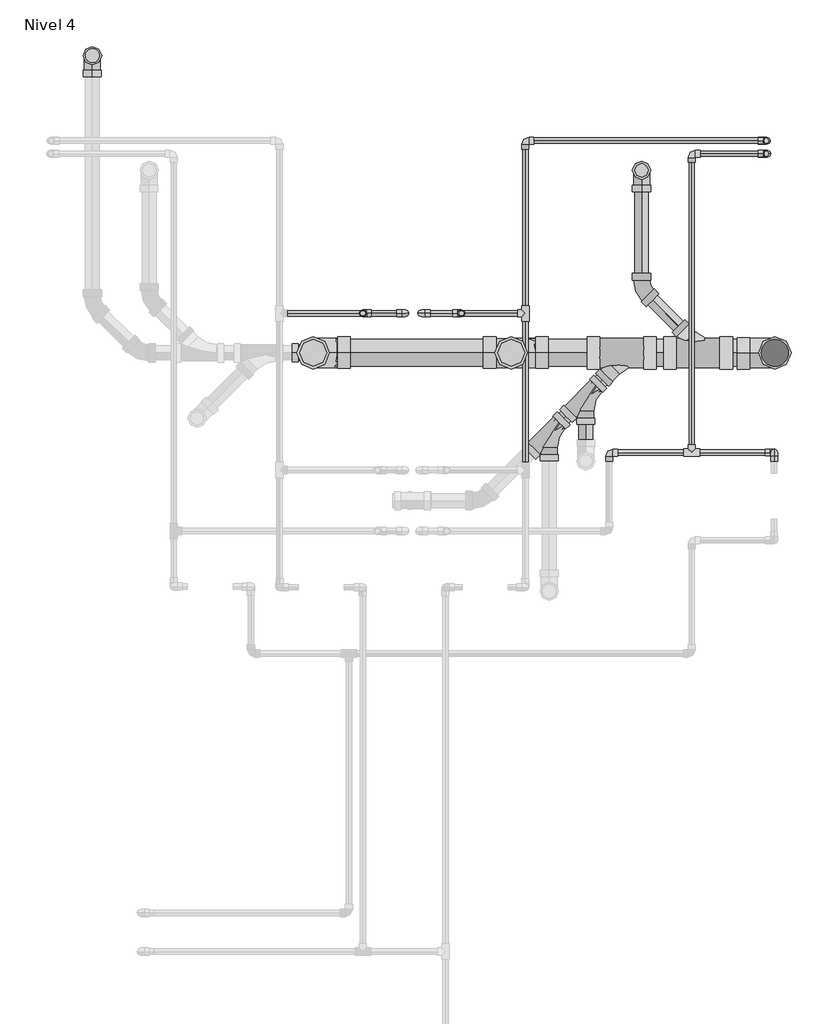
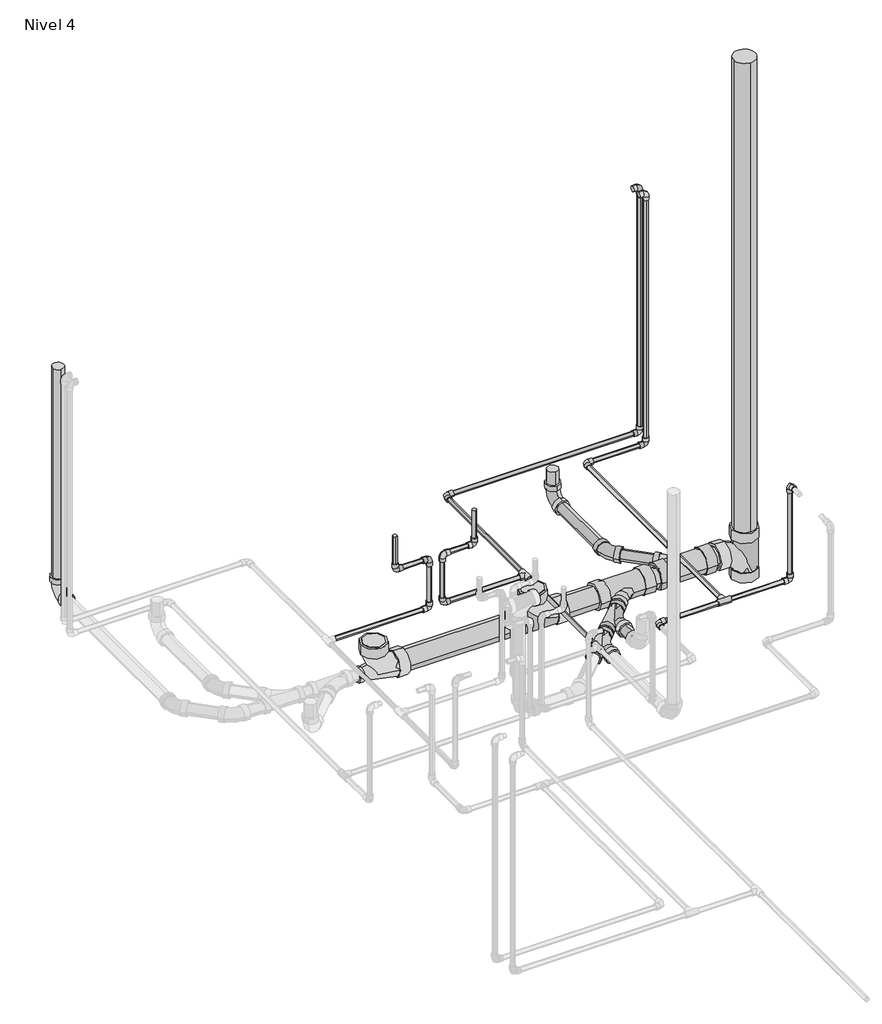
# One storey, part 9 of 9: 32 pipe segments, 27 pipe fittings.
"""IFC4 building model written with IfcOpenShell, lengths in millimetres."""

from ifc_helpers import new_model, si_unit, point, frame, frame_2d, origin, place, context, project, spatial, circle_curve, trimmed, segment, composite_curve, outline, extrude, transform, mapped, element, save
from components import pipe_fitting_ab418b84, pipe_fitting_0163322b, pipe_fitting_2a8dfbef, pipe_fitting_44a425ca, pipe_fitting_ef5974f2, m_codo_pvc_serie_40_9ad74631, m_codo_pvc_serie_40_ba05d404, m_codo_pvc_serie_40_dwv1_5c0ec739, m_codo_pvc_serie_40_dwv1_6f1a2495, m_codo_pvc_serie_40_dwv1_326aaa64

model = new_model("IFC4")

# Units and contexts
model_context = context("Model", 3, world=origin())
ifc_project = project(units=[si_unit("LENGTHUNIT", "METRE", prefix="MILLI")], contexts=[model_context])

# Site, building, storey
site = spatial("IfcSite", under=ifc_project)
building = spatial("IfcBuilding", under=site)
storey = spatial("IfcBuildingStorey", under=building, Name="Nivel 4", Elevation=8100.0)

# Pipe fittings
placement = place(None, origin())
pipe_fitting_shape = pipe_fitting_ab418b84(model_context)
element("IfcPipeFitting", 1, ObjectType="M_Te - PVC - Serie 40 : Estándar", at=placement, inside=storey, context=model_context, shape_type="MappedRepresentation", body=[
    mapped(pipe_fitting_shape, transform((4894.5674476, 16556.8784649, 8050.0), x_axis=(0.0, 1.0, 0.0), y_axis=(1.0, 0.0, 0.0), z_axis=(0.0, 0.0, -1.0))),
])
element("IfcPipeFitting", 2, ObjectType="M_Te - PVC - Serie 40 : Estándar", at=placement, inside=storey, context=model_context, shape_type="MappedRepresentation", body=[
    mapped(pipe_fitting_shape, transform((5540.0276039, 16016.3878958, 8020.0), x_axis=(-1.0, 0.0, 0.0), y_axis=(0.0, -1.0, 0.0), z_axis=(0.0, 0.0, 1.0))),
])
pipe_fitting_2_shape = pipe_fitting_0163322b(model_context)
element("IfcPipeFitting", 3, ObjectType="M_Sanitario con te de reducción - PVC - Serie 40 - DWV : Estándar", at=placement, inside=storey, context=model_context, shape_type="MappedRepresentation", body=[
    mapped(pipe_fitting_2_shape, transform((5128.991198, 16235.29172, 7950.0), x_axis=(-0.7071067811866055, -0.7071067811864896, 0.0), y_axis=(-0.7071067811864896, 0.7071067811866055, 0.0), z_axis=(0.0, 0.0, -1.0))),
])
element("IfcPipeFitting", 4, ObjectType="M_Sanitario con te de reducción - PVC - Serie 40 - DWV : Estándar", at=placement, inside=storey, context=model_context, shape_type="MappedRepresentation", body=[
    mapped(pipe_fitting_2_shape, transform((4986.7349767, 16093.0354988, 7950.0), x_axis=(-0.7071067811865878, -0.7071067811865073, 0.0), y_axis=(-0.7071067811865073, 0.7071067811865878, 0.0), z_axis=(0.0, 0.0, -1.0))),
])
pipe_fitting_3_shape = pipe_fitting_2a8dfbef(model_context)
element("IfcPipeFitting", 5, ObjectType="M_Sanitario con te de reducción - PVC - Serie 40 - DWV : Estándar", at=placement, inside=storey, context=model_context, shape_type="MappedRepresentation", body=[
    mapped(pipe_fitting_3_shape, transform((4839.2491598, 16403.3960274, 7950.0), x_axis=(-1.0, 0.0, 0.0), y_axis=(0.0, 0.0, -1.0), z_axis=(0.0, -1.0, 0.0))),
])
element("IfcPipeFitting", 6, ObjectType="M_Sanitario con te de reducción - PVC - Serie 40 - DWV : Estándar", at=placement, inside=storey, context=model_context, shape_type="MappedRepresentation", body=[
    mapped(pipe_fitting_3_shape, transform((5863.1438745, 16403.3960274, 7950.0), x_axis=(0.0, 0.0, 1.0), y_axis=(1.0, 0.0, 0.0), z_axis=(0.0, 1.0, 0.0))),
])
pipe_fitting_4_shape = pipe_fitting_44a425ca(model_context)
element("IfcPipeFitting", 7, ObjectType="M_Sanitario con te de reducción - PVC - Serie 40 - DWV : Estándar", at=placement, inside=storey, context=model_context, shape_type="MappedRepresentation", body=[
    mapped(pipe_fitting_4_shape, transform((4070.6571051, 16403.3960274, 7950.0), x_axis=(-1.0, 0.0, 0.0), y_axis=(0.0, 0.0, -1.0), z_axis=(0.0, -1.0, 0.0))),
])
pipe_fitting_5_shape = pipe_fitting_ef5974f2(model_context)
element("IfcPipeFitting", 8, ObjectType="M_Sanitario con te de reducción - PVC - Serie 40 - DWV : Estándar", at=placement, inside=storey, context=model_context, shape_type="MappedRepresentation", body=[
    mapped(pipe_fitting_5_shape, transform((5593.2700372, 16403.3960274, 7950.0), x_axis=(-1.0, 0.0, 0.0), y_axis=(0.0, -1.0, 0.0), z_axis=(0.0, 0.0, 1.0))),
])
element("IfcPipeFitting", 9, ObjectType="M_Sanitario con te de reducción - PVC - Serie 40 - DWV : Estándar", at=placement, inside=storey, context=model_context, shape_type="MappedRepresentation", body=[
    mapped(pipe_fitting_5_shape, transform((5297.0955053, 16403.3960274, 7950.0), x_axis=(-1.0, 0.0, 0.0), y_axis=(0.0, 1.0, 0.0), z_axis=(0.0, 0.0, -1.0))),
])
m_codo_pvc_serie_40_shape = m_codo_pvc_serie_40_9ad74631(model_context)
element("IfcPipeFitting", 10, ObjectType="M_Codo - PVC - Serie 40 : Estándar", at=placement, inside=storey, context=model_context, shape_type="MappedRepresentation", body=[
    mapped(m_codo_pvc_serie_40_shape, transform((4263.6339186, 16556.8784649, 8300.0), x_axis=(0.0, 0.0, -1.0), y_axis=(1.0, 0.0, 0.0), z_axis=(0.0, -1.0, 0.0))),
])
element("IfcPipeFitting", 11, ObjectType="M_Codo - PVC - Serie 40 : Estándar", at=placement, inside=storey, context=model_context, shape_type="MappedRepresentation", body=[
    mapped(m_codo_pvc_serie_40_shape, transform((4428.6339186, 16556.8784649, 8300.0), x_axis=(1.0, 0.0, 0.0), y_axis=(0.0, 0.0, -1.0), z_axis=(0.0, 1.0, 0.0))),
])
element("IfcPipeFitting", 12, ObjectType="M_Codo - PVC - Serie 40 : Estándar", at=placement, inside=storey, context=model_context, shape_type="MappedRepresentation", body=[
    mapped(m_codo_pvc_serie_40_shape, transform((4428.6339186, 16556.8784649, 8050.0), x_axis=(0.0, 0.0, -1.0), y_axis=(-1.0, 0.0, 0.0), z_axis=(0.0, 1.0, 0.0))),
])
element("IfcPipeFitting", 13, ObjectType="M_Codo - PVC - Serie 40 : Estándar", at=placement, inside=storey, context=model_context, shape_type="MappedRepresentation", body=[
    mapped(m_codo_pvc_serie_40_shape, transform((4646.2723463, 16556.8784649, 8300.0), x_axis=(0.0, 0.0, -1.0), y_axis=(-1.0, 0.0, 0.0), z_axis=(0.0, 1.0, 0.0))),
])
element("IfcPipeFitting", 14, ObjectType="M_Codo - PVC - Serie 40 : Estándar", at=placement, inside=storey, context=model_context, shape_type="MappedRepresentation", body=[
    mapped(m_codo_pvc_serie_40_shape, transform((4491.2723463, 16556.8784649, 8300.0), x_axis=(-1.0, 0.0, 0.0), y_axis=(0.0, 0.0, -1.0), z_axis=(0.0, -1.0, 0.0))),
])
element("IfcPipeFitting", 15, ObjectType="M_Codo - PVC - Serie 40 : Estándar", at=placement, inside=storey, context=model_context, shape_type="MappedRepresentation", body=[
    mapped(m_codo_pvc_serie_40_shape, transform((4894.5674476, 17227.3386211, 8050.0), x_axis=(-1.0, 0.0, 0.0), y_axis=(0.0, -1.0, 0.0), z_axis=(0.0, 0.0, 1.0))),
])
element("IfcPipeFitting", 16, ObjectType="M_Codo - PVC - Serie 40 : Estándar", at=placement, inside=storey, context=model_context, shape_type="MappedRepresentation", body=[
    mapped(m_codo_pvc_serie_40_shape, transform((4491.2723463, 16556.8784649, 8050.0), x_axis=(0.0, 0.0, -1.0), y_axis=(1.0, 0.0, 0.0), z_axis=(0.0, -1.0, 0.0))),
])
element("IfcPipeFitting", 17, ObjectType="M_Codo - PVC - Serie 40 : Estándar", at=placement, inside=storey, context=model_context, shape_type="MappedRepresentation", body=[
    mapped(m_codo_pvc_serie_40_shape, transform((5860.0276039, 16016.3878958, 8500.0), x_axis=(0.0, 1.0, 0.0), y_axis=(0.0, 0.0, -1.0), z_axis=(-1.0, 0.0, 0.0))),
])
element("IfcPipeFitting", 18, ObjectType="M_Codo - PVC - Serie 40 : Estándar", at=placement, inside=storey, context=model_context, shape_type="MappedRepresentation", body=[
    mapped(m_codo_pvc_serie_40_shape, transform((5860.0276039, 16016.3878958, 8020.0), x_axis=(0.0, 0.0, -1.0), y_axis=(-1.0, 0.0, 0.0), z_axis=(0.0, 1.0, 0.0))),
])
element("IfcPipeFitting", 19, ObjectType="M_Codo - PVC - Serie 40 : Estándar", at=placement, inside=storey, context=model_context, shape_type="MappedRepresentation", body=[
    mapped(m_codo_pvc_serie_40_shape, transform((5540.0276039, 17176.3878958, 8020.0), x_axis=(-1.0, 0.0, 0.0), y_axis=(0.0, -1.0, 0.0), z_axis=(0.0, 0.0, 1.0))),
])
element("IfcPipeFitting", 20, ObjectType="M_Codo - PVC - Serie 40 : Estándar", at=placement, inside=storey, context=model_context, shape_type="MappedRepresentation", body=[
    mapped(m_codo_pvc_serie_40_shape, transform((5832.5276039, 17176.3878958, 8020.0), x_axis=(1.0, 0.0, 0.0), y_axis=(0.0, 0.0, 1.0), z_axis=(0.0, -1.0, 0.0))),
])
element("IfcPipeFitting", 21, ObjectType="M_Codo - PVC - Serie 40 : Estándar", at=placement, inside=storey, context=model_context, shape_type="MappedRepresentation", body=[
    mapped(m_codo_pvc_serie_40_shape, transform((5832.5276039, 17176.3878958, 9300.0), x_axis=(0.0, 0.0, 1.0), y_axis=(-1.0, 0.0, 0.0), z_axis=(0.0, -1.0, 0.0))),
])
element("IfcPipeFitting", 22, ObjectType="M_Codo - PVC - Serie 40 : Estándar", at=placement, inside=storey, context=model_context, shape_type="MappedRepresentation", body=[
    mapped(m_codo_pvc_serie_40_shape, transform((5219.5674476, 16016.3878958, 8020.0), x_axis=(-1.0, 0.0, 0.0), y_axis=(0.0, -1.0, 0.0), z_axis=(0.0, 0.0, 1.0))),
])
m_codo_pvc_serie_40_2_shape = m_codo_pvc_serie_40_ba05d404(model_context)
element("IfcPipeFitting", 23, ObjectType="M_Codo - PVC - Serie 40 : Estándar", at=placement, inside=storey, context=model_context, shape_type="MappedRepresentation", body=[
    mapped(m_codo_pvc_serie_40_2_shape, transform((5831.7288958, 17227.3386211, 8050.0), x_axis=(1.0, 0.0, 0.0), y_axis=(0.0, 0.0, -1.0), z_axis=(0.0, 1.0, 0.0))),
])
element("IfcPipeFitting", 24, ObjectType="M_Codo - PVC - Serie 40 : Estándar", at=placement, inside=storey, context=model_context, shape_type="MappedRepresentation", body=[
    mapped(m_codo_pvc_serie_40_2_shape, transform((5831.7288958, 17227.3386211, 9300.0), x_axis=(0.0, 0.0, 1.0), y_axis=(1.0, 0.0, 0.0), z_axis=(0.0, 1.0, 0.0))),
])
m_codo_pvc_serie_40_dwv1_shape = m_codo_pvc_serie_40_dwv1_5c0ec739(model_context)
element("IfcPipeFitting", 25, ObjectType="M_Codo - PVC - Serie 40 - DWV1 : Estándar 2", at=placement, inside=storey, context=model_context, shape_type="MappedRepresentation", body=[
    mapped(m_codo_pvc_serie_40_dwv1_shape, transform((3213.7125219, 17557.2430701, 7950.0), x_axis=(0.0, 1.0, 0.0), y_axis=(0.0, 0.0, 1.0), z_axis=(1.0, 0.0, 0.0))),
])
m_codo_pvc_serie_40_dwv1_2_shape = m_codo_pvc_serie_40_dwv1_6f1a2495(model_context)
element("IfcPipeFitting", 26, ObjectType="M_Codo - PVC - Serie 40 - DWV1 : Estándar 2", at=placement, inside=storey, context=model_context, shape_type="MappedRepresentation", body=[
    mapped(m_codo_pvc_serie_40_dwv1_2_shape, transform((5345.3911414, 16651.2749231, 7950.0), x_axis=(0.0, -1.0, 0.0), y_axis=(1.0, 0.0, 0.0), z_axis=(0.0, 0.0, 1.0))),
])
m_codo_pvc_serie_40_dwv1_3_shape = m_codo_pvc_serie_40_dwv1_326aaa64(model_context)
element("IfcPipeFitting", 27, ObjectType="M_Codo - PVC - Serie 40 - DWV1 : Estándar 2", at=placement, inside=storey, context=model_context, shape_type="MappedRepresentation", body=[
    mapped(m_codo_pvc_serie_40_dwv1_3_shape, transform((5345.3911414, 17111.7600116, 7950.0), x_axis=(0.0, 1.0, 0.0), y_axis=(0.0, 0.0, -1.0), z_axis=(-1.0, 0.0, 0.0))),
])

# Pipe segments
element("IfcPipeSegment", 28, ObjectType="Tuberia PVC Agua Fria", at=placement, inside=storey, context=model_context, shape_type="SweptSolid", body=[
    extrude(outline(composite_curve([segment(trimmed(circle_curve(frame_2d((16556.8784649, 8300.0)), 10.31875), [point((16546.5597149, 8300.0))], [point((16556.8784649, 8310.31875))], False, "CARTESIAN"), True, "CONTINUOUS"), segment(trimmed(circle_curve(frame_2d((16556.8784649, 8300.0)), 10.31875), [point((16556.8784649, 8310.31875))], [point((16567.1972149, 8300.0))], False, "CARTESIAN"), True, "CONTINUOUS"), segment(trimmed(circle_curve(frame_2d((16556.8784649, 8300.0)), 10.31875), [point((16567.1972149, 8300.0))], [point((16556.8784649, 8289.68125))], False, "CARTESIAN"), True, "CONTINUOUS"), segment(trimmed(circle_curve(frame_2d((16556.8784649, 8300.0)), 10.31875), [point((16556.8784649, 8289.68125))], [point((16546.5597149, 8300.0))], False, "CARTESIAN"), True, "CONTINUOUS")], self_intersect=False)), frame((4297.0349186, 0.0, 0.0), z_axis=(1.0, 0.0, 0.0), x_axis=(0.0, 1.0, 0.0)), (0.0, 0.0, 1.0), 98.198),
])
element("IfcPipeSegment", 29, ObjectType="Tuberia PVC Agua Fria", at=placement, inside=storey, context=model_context, shape_type="SweptSolid", body=[
    extrude(outline(composite_curve([segment(trimmed(circle_curve(frame_2d((4263.6339186, 16556.8784649)), 10.31875), [point((4273.9526686, 16556.8784649))], [point((4263.6339186, 16546.5597149))], False, "CARTESIAN"), True, "CONTINUOUS"), segment(trimmed(circle_curve(frame_2d((4263.6339186, 16556.8784649)), 10.31875), [point((4263.6339186, 16546.5597149))], [point((4253.3151686, 16556.8784649))], False, "CARTESIAN"), True, "CONTINUOUS"), segment(trimmed(circle_curve(frame_2d((4263.6339186, 16556.8784649)), 10.31875), [point((4253.3151686, 16556.8784649))], [point((4263.6339186, 16567.1972149))], False, "CARTESIAN"), True, "CONTINUOUS"), segment(trimmed(circle_curve(frame_2d((4263.6339186, 16556.8784649)), 10.31875), [point((4263.6339186, 16567.1972149))], [point((4273.9526686, 16556.8784649))], False, "CARTESIAN"), True, "CONTINUOUS")], self_intersect=False)), frame((0.0, 0.0, 8333.401), z_axis=(0.0, 0.0, 1.0), x_axis=(1.0, 0.0, 0.0)), (0.0, 0.0, 1.0), 139.7562509),
])
element("IfcPipeSegment", 30, ObjectType="Tuberia PVC Agua Fria", at=placement, inside=storey, context=model_context, shape_type="SweptSolid", body=[
    extrude(outline(composite_curve([segment(trimmed(circle_curve(frame_2d((16556.8784649, 8050.0)), 10.31875), [point((16567.1972149, 8050.0))], [point((16556.8784649, 8039.68125))], False, "CARTESIAN"), True, "CONTINUOUS"), segment(trimmed(circle_curve(frame_2d((16556.8784649, 8050.0)), 10.31875), [point((16556.8784649, 8039.68125))], [point((16546.5597149, 8050.0))], False, "CARTESIAN"), True, "CONTINUOUS"), segment(trimmed(circle_curve(frame_2d((16556.8784649, 8050.0)), 10.31875), [point((16546.5597149, 8050.0))], [point((16556.8784649, 8060.31875))], False, "CARTESIAN"), True, "CONTINUOUS"), segment(trimmed(circle_curve(frame_2d((16556.8784649, 8050.0)), 10.31875), [point((16556.8784649, 8060.31875))], [point((16567.1972149, 8050.0))], False, "CARTESIAN"), True, "CONTINUOUS")], self_intersect=False)), frame((3970.5125253, 0.0, 0.0), z_axis=(1.0, 0.0, 0.0), x_axis=(0.0, 1.0, 0.0)), (0.0, 0.0, 1.0), 424.7203933),
])
element("IfcPipeSegment", 31, ObjectType="Tuberia PVC Agua Fria", at=placement, inside=storey, context=model_context, shape_type="SweptSolid", body=[
    extrude(outline(composite_curve([segment(trimmed(circle_curve(frame_2d((4428.6339186, 16556.8784649)), 10.31875), [point((4438.9526686, 16556.8784649))], [point((4428.6339186, 16546.5597149))], False, "CARTESIAN"), True, "CONTINUOUS"), segment(trimmed(circle_curve(frame_2d((4428.6339186, 16556.8784649)), 10.31875), [point((4428.6339186, 16546.5597149))], [point((4418.3151686, 16556.8784649))], False, "CARTESIAN"), True, "CONTINUOUS"), segment(trimmed(circle_curve(frame_2d((4428.6339186, 16556.8784649)), 10.31875), [point((4418.3151686, 16556.8784649))], [point((4428.6339186, 16567.1972149))], False, "CARTESIAN"), True, "CONTINUOUS"), segment(trimmed(circle_curve(frame_2d((4428.6339186, 16556.8784649)), 10.31875), [point((4428.6339186, 16567.1972149))], [point((4438.9526686, 16556.8784649))], False, "CARTESIAN"), True, "CONTINUOUS")], self_intersect=False)), frame((0.0, 0.0, 8083.401), z_axis=(0.0, 0.0, 1.0), x_axis=(1.0, 0.0, 0.0)), (0.0, 0.0, 1.0), 183.198),
])
element("IfcPipeSegment", 32, ObjectType="Tuberia PVC Agua Fria", at=placement, inside=storey, context=model_context, shape_type="SweptSolid", body=[
    extrude(outline(composite_curve([segment(trimmed(circle_curve(frame_2d((16556.8784649, 8300.0)), 10.31875), [point((16567.1972149, 8300.0))], [point((16556.8784649, 8289.68125))], False, "CARTESIAN"), True, "CONTINUOUS"), segment(trimmed(circle_curve(frame_2d((16556.8784649, 8300.0)), 10.31875), [point((16556.8784649, 8289.68125))], [point((16546.5597149, 8300.0))], False, "CARTESIAN"), True, "CONTINUOUS"), segment(trimmed(circle_curve(frame_2d((16556.8784649, 8300.0)), 10.31875), [point((16546.5597149, 8300.0))], [point((16556.8784649, 8310.31875))], False, "CARTESIAN"), True, "CONTINUOUS"), segment(trimmed(circle_curve(frame_2d((16556.8784649, 8300.0)), 10.31875), [point((16556.8784649, 8310.31875))], [point((16567.1972149, 8300.0))], False, "CARTESIAN"), True, "CONTINUOUS")], self_intersect=False)), frame((4524.6733463, 0.0, 0.0), z_axis=(1.0, 0.0, 0.0), x_axis=(0.0, 1.0, 0.0)), (0.0, 0.0, 1.0), 88.198),
])
element("IfcPipeSegment", 33, ObjectType="Tuberia PVC Agua Fria", at=placement, inside=storey, context=model_context, shape_type="SweptSolid", body=[
    extrude(outline(composite_curve([segment(trimmed(circle_curve(frame_2d((4646.2723463, 16556.8784649)), 10.31875), [point((4656.5910963, 16556.8784649))], [point((4646.2723463, 16546.5597149))], False, "CARTESIAN"), True, "CONTINUOUS"), segment(trimmed(circle_curve(frame_2d((4646.2723463, 16556.8784649)), 10.31875), [point((4646.2723463, 16546.5597149))], [point((4635.9535963, 16556.8784649))], False, "CARTESIAN"), True, "CONTINUOUS"), segment(trimmed(circle_curve(frame_2d((4646.2723463, 16556.8784649)), 10.31875), [point((4635.9535963, 16556.8784649))], [point((4646.2723463, 16567.1972149))], False, "CARTESIAN"), True, "CONTINUOUS"), segment(trimmed(circle_curve(frame_2d((4646.2723463, 16556.8784649)), 10.31875), [point((4646.2723463, 16567.1972149))], [point((4656.5910963, 16556.8784649))], False, "CARTESIAN"), True, "CONTINUOUS")], self_intersect=False)), frame((0.0, 0.0, 8333.401), z_axis=(0.0, 0.0, 1.0), x_axis=(1.0, 0.0, 0.0)), (0.0, 0.0, 1.0), 139.7562509),
])
element("IfcPipeSegment", 34, ObjectType="Tuberia PVC Agua Fria", at=placement, inside=storey, context=model_context, shape_type="SweptSolid", body=[
    extrude(outline(composite_curve([segment(trimmed(circle_curve(frame_2d((4491.2723463, 16556.8784649)), 10.31875), [point((4501.5910963, 16556.8784649))], [point((4491.2723463, 16546.5597149))], False, "CARTESIAN"), True, "CONTINUOUS"), segment(trimmed(circle_curve(frame_2d((4491.2723463, 16556.8784649)), 10.31875), [point((4491.2723463, 16546.5597149))], [point((4480.9535963, 16556.8784649))], False, "CARTESIAN"), True, "CONTINUOUS"), segment(trimmed(circle_curve(frame_2d((4491.2723463, 16556.8784649)), 10.31875), [point((4480.9535963, 16556.8784649))], [point((4491.2723463, 16567.1972149))], False, "CARTESIAN"), True, "CONTINUOUS"), segment(trimmed(circle_curve(frame_2d((4491.2723463, 16556.8784649)), 10.31875), [point((4491.2723463, 16567.1972149))], [point((4501.5910963, 16556.8784649))], False, "CARTESIAN"), True, "CONTINUOUS")], self_intersect=False)), frame((0.0, 0.0, 8083.401), z_axis=(0.0, 0.0, 1.0), x_axis=(1.0, 0.0, 0.0)), (0.0, 0.0, 1.0), 183.198),
])
element("IfcPipeSegment", 35, ObjectType="Tuberia PVC Agua Fria", at=placement, inside=storey, context=model_context, shape_type="SweptSolid", body=[
    extrude(outline(composite_curve([segment(trimmed(circle_curve(frame_2d((17227.3386211, 8050.0)), 10.31875), [point((17217.0198711, 8050.0))], [point((17227.3386211, 8060.31875))], False, "CARTESIAN"), True, "CONTINUOUS"), segment(trimmed(circle_curve(frame_2d((17227.3386211, 8050.0)), 10.31875), [point((17227.3386211, 8060.31875))], [point((17237.6573711, 8050.0))], False, "CARTESIAN"), True, "CONTINUOUS"), segment(trimmed(circle_curve(frame_2d((17227.3386211, 8050.0)), 10.31875), [point((17237.6573711, 8050.0))], [point((17227.3386211, 8039.68125))], False, "CARTESIAN"), True, "CONTINUOUS"), segment(trimmed(circle_curve(frame_2d((17227.3386211, 8050.0)), 10.31875), [point((17227.3386211, 8039.68125))], [point((17217.0198711, 8050.0))], False, "CARTESIAN"), True, "CONTINUOUS")], self_intersect=False)), frame((4927.9684476, 0.0, 0.0), z_axis=(1.0, 0.0, 0.0), x_axis=(0.0, 1.0, 0.0)), (0.0, 0.0, 1.0), 870.3594481),
])
element("IfcPipeSegment", 36, ObjectType="Tuberia PVC Agua Fria", at=placement, inside=storey, context=model_context, shape_type="SweptSolid", body=[
    extrude(outline(composite_curve([segment(trimmed(circle_curve(frame_2d((5831.7288958, 17227.3386211)), 10.31875), [point((5821.4101458, 17227.3386211))], [point((5831.7288958, 17237.6573711))], False, "CARTESIAN"), True, "CONTINUOUS"), segment(trimmed(circle_curve(frame_2d((5831.7288958, 17227.3386211)), 10.31875), [point((5831.7288958, 17237.6573711))], [point((5842.0476458, 17227.3386211))], False, "CARTESIAN"), True, "CONTINUOUS"), segment(trimmed(circle_curve(frame_2d((5831.7288958, 17227.3386211)), 10.31875), [point((5842.0476458, 17227.3386211))], [point((5831.7288958, 17217.0198711))], False, "CARTESIAN"), True, "CONTINUOUS"), segment(trimmed(circle_curve(frame_2d((5831.7288958, 17227.3386211)), 10.31875), [point((5831.7288958, 17217.0198711))], [point((5821.4101458, 17227.3386211))], False, "CARTESIAN"), True, "CONTINUOUS")], self_intersect=False)), frame((0.0, 0.0, 8083.401), z_axis=(0.0, 0.0, 1.0), x_axis=(1.0, 0.0, 0.0)), (0.0, 0.0, 1.0), 1183.198),
])
element("IfcPipeSegment", 37, ObjectType="Tuberia PVC Agua Fria", at=placement, inside=storey, context=model_context, shape_type="SweptSolid", body=[
    extrude(outline(composite_curve([segment(trimmed(circle_curve(frame_2d((16556.8784649, 8050.0)), 10.31875), [point((16546.5597149, 8050.0))], [point((16556.8784649, 8060.31875))], False, "CARTESIAN"), True, "CONTINUOUS"), segment(trimmed(circle_curve(frame_2d((16556.8784649, 8050.0)), 10.31875), [point((16556.8784649, 8060.31875))], [point((16567.1972149, 8050.0))], False, "CARTESIAN"), True, "CONTINUOUS"), segment(trimmed(circle_curve(frame_2d((16556.8784649, 8050.0)), 10.31875), [point((16567.1972149, 8050.0))], [point((16556.8784649, 8039.68125))], False, "CARTESIAN"), True, "CONTINUOUS"), segment(trimmed(circle_curve(frame_2d((16556.8784649, 8050.0)), 10.31875), [point((16556.8784649, 8039.68125))], [point((16546.5597149, 8050.0))], False, "CARTESIAN"), True, "CONTINUOUS")], self_intersect=False)), frame((4524.6733463, 0.0, 0.0), z_axis=(1.0, 0.0, 0.0), x_axis=(0.0, 1.0, 0.0)), (0.0, 0.0, 1.0), 339.4339451),
])
element("IfcPipeSegment", 38, ObjectType="Tuberia PVC Agua Fria", at=placement, inside=storey, context=model_context, shape_type="SweptSolid", body=[
    extrude(outline(composite_curve([segment(trimmed(circle_curve(frame_2d((8050.0, 4894.5674476)), 10.31875), [point((8050.0, 4884.2486976))], [point((8039.68125, 4894.5674476))], False, "CARTESIAN"), True, "CONTINUOUS"), segment(trimmed(circle_curve(frame_2d((8050.0, 4894.5674476)), 10.31875), [point((8039.68125, 4894.5674476))], [point((8050.0, 4904.8861976))], False, "CARTESIAN"), True, "CONTINUOUS"), segment(trimmed(circle_curve(frame_2d((8050.0, 4894.5674476)), 10.31875), [point((8050.0, 4904.8861976))], [point((8060.31875, 4894.5674476))], False, "CARTESIAN"), True, "CONTINUOUS"), segment(trimmed(circle_curve(frame_2d((8050.0, 4894.5674476)), 10.31875), [point((8060.31875, 4894.5674476))], [point((8050.0, 4884.2486976))], False, "CARTESIAN"), True, "CONTINUOUS")], self_intersect=False)), frame((0.0, 15978.8385729, 0.0), z_axis=(0.0, 1.0, 0.0), x_axis=(0.0, 0.0, 1.0)), (0.0, 0.0, 1.0), 547.5797357),
])
element("IfcPipeSegment", 39, ObjectType="Tuberia PVC Agua Fria", at=placement, inside=storey, context=model_context, shape_type="SweptSolid", body=[
    extrude(outline(composite_curve([segment(trimmed(circle_curve(frame_2d((8050.0, 4894.5674476)), 10.31875), [point((8050.0, 4884.2486976))], [point((8039.68125, 4894.5674476))], False, "CARTESIAN"), True, "CONTINUOUS"), segment(trimmed(circle_curve(frame_2d((8050.0, 4894.5674476)), 10.31875), [point((8039.68125, 4894.5674476))], [point((8050.0, 4904.8861976))], False, "CARTESIAN"), True, "CONTINUOUS"), segment(trimmed(circle_curve(frame_2d((8050.0, 4894.5674476)), 10.31875), [point((8050.0, 4904.8861976))], [point((8060.31875, 4894.5674476))], False, "CARTESIAN"), True, "CONTINUOUS"), segment(trimmed(circle_curve(frame_2d((8050.0, 4894.5674476)), 10.31875), [point((8060.31875, 4894.5674476))], [point((8050.0, 4884.2486976))], False, "CARTESIAN"), True, "CONTINUOUS")], self_intersect=False)), frame((0.0, 16587.3386211, 0.0), z_axis=(0.0, 1.0, 0.0), x_axis=(0.0, 0.0, 1.0)), (0.0, 0.0, 1.0), 606.599),
])
element("IfcPipeSegment", 40, ObjectType="Tuberia PVC VENTILACION", at=placement, inside=storey, context=model_context, shape_type="SweptSolid", body=[
    extrude(outline(composite_curve([segment(trimmed(circle_curve(frame_2d((3213.7125219, 17557.2430701)), 26.9875), [point((3186.7250219, 17557.2430701))], [point((3213.7125219, 17584.2305701))], False, "CARTESIAN"), True, "CONTINUOUS"), segment(trimmed(circle_curve(frame_2d((3213.7125219, 17557.2430701)), 26.9875), [point((3213.7125219, 17584.2305701))], [point((3240.7000219, 17557.2430701))], False, "CARTESIAN"), True, "CONTINUOUS"), segment(trimmed(circle_curve(frame_2d((3213.7125219, 17557.2430701)), 26.9875), [point((3240.7000219, 17557.2430701))], [point((3213.7125219, 17530.2555701))], False, "CARTESIAN"), True, "CONTINUOUS"), segment(trimmed(circle_curve(frame_2d((3213.7125219, 17557.2430701)), 26.9875), [point((3213.7125219, 17530.2555701))], [point((3186.7250219, 17557.2430701))], False, "CARTESIAN"), True, "CONTINUOUS")], self_intersect=False)), frame((0.0, 0.0, 8032.5420625), z_axis=(0.0, 0.0, 1.0), x_axis=(1.0, 0.0, 0.0)), (0.0, 0.0, 1.0), 1067.4579375),
])
element("IfcPipeSegment", 41, ObjectType="Tuberia PVC Agua Caliente", at=placement, inside=storey, context=model_context, shape_type="SweptSolid", body=[
    extrude(outline(composite_curve([segment(trimmed(circle_curve(frame_2d((16016.3878958, 8020.0)), 10.31875), [point((16026.7066458, 8020.0))], [point((16016.3878958, 8009.68125))], False, "CARTESIAN"), True, "CONTINUOUS"), segment(trimmed(circle_curve(frame_2d((16016.3878958, 8020.0)), 10.31875), [point((16016.3878958, 8009.68125))], [point((16006.0691458, 8020.0))], False, "CARTESIAN"), True, "CONTINUOUS"), segment(trimmed(circle_curve(frame_2d((16016.3878958, 8020.0)), 10.31875), [point((16006.0691458, 8020.0))], [point((16016.3878958, 8030.31875))], False, "CARTESIAN"), True, "CONTINUOUS"), segment(trimmed(circle_curve(frame_2d((16016.3878958, 8020.0)), 10.31875), [point((16016.3878958, 8030.31875))], [point((16026.7066458, 8020.0))], False, "CARTESIAN"), True, "CONTINUOUS")], self_intersect=False)), frame((5570.4877601, 0.0, 0.0), z_axis=(1.0, 0.0, 0.0), x_axis=(0.0, 1.0, 0.0)), (0.0, 0.0, 1.0), 256.1388438),
])
element("IfcPipeSegment", 42, ObjectType="Tuberia PVC Agua Caliente", at=placement, inside=storey, context=model_context, shape_type="SweptSolid", body=[
    extrude(outline(composite_curve([segment(trimmed(circle_curve(frame_2d((5860.0276039, 16016.3878958)), 10.31875), [point((5870.3463539, 16016.3878958))], [point((5860.0276039, 16006.0691458))], False, "CARTESIAN"), True, "CONTINUOUS"), segment(trimmed(circle_curve(frame_2d((5860.0276039, 16016.3878958)), 10.31875), [point((5860.0276039, 16006.0691458))], [point((5849.7088539, 16016.3878958))], False, "CARTESIAN"), True, "CONTINUOUS"), segment(trimmed(circle_curve(frame_2d((5860.0276039, 16016.3878958)), 10.31875), [point((5849.7088539, 16016.3878958))], [point((5860.0276039, 16026.7066458))], False, "CARTESIAN"), True, "CONTINUOUS"), segment(trimmed(circle_curve(frame_2d((5860.0276039, 16016.3878958)), 10.31875), [point((5860.0276039, 16026.7066458))], [point((5870.3463539, 16016.3878958))], False, "CARTESIAN"), True, "CONTINUOUS")], self_intersect=False)), frame((0.0, 0.0, 8053.401), z_axis=(0.0, 0.0, 1.0), x_axis=(1.0, 0.0, 0.0)), (0.0, 0.0, 1.0), 413.198),
])
element("IfcPipeSegment", 43, ObjectType="Tuberia PVC Agua Caliente", at=placement, inside=storey, context=model_context, shape_type="SweptSolid", body=[
    extrude(outline(composite_curve([segment(trimmed(circle_curve(frame_2d((8020.0, 5540.0276039)), 10.31875), [point((8020.0, 5550.3463539))], [point((8030.31875, 5540.0276039))], False, "CARTESIAN"), True, "CONTINUOUS"), segment(trimmed(circle_curve(frame_2d((8020.0, 5540.0276039)), 10.31875), [point((8030.31875, 5540.0276039))], [point((8020.0, 5529.7088539))], False, "CARTESIAN"), True, "CONTINUOUS"), segment(trimmed(circle_curve(frame_2d((8020.0, 5540.0276039)), 10.31875), [point((8020.0, 5529.7088539))], [point((8009.68125, 5540.0276039))], False, "CARTESIAN"), True, "CONTINUOUS"), segment(trimmed(circle_curve(frame_2d((8020.0, 5540.0276039)), 10.31875), [point((8009.68125, 5540.0276039))], [point((8020.0, 5550.3463539))], False, "CARTESIAN"), True, "CONTINUOUS")], self_intersect=False)), frame((0.0, 16046.848052, 0.0), z_axis=(0.0, 1.0, 0.0), x_axis=(0.0, 0.0, 1.0)), (0.0, 0.0, 1.0), 1096.1388438),
])
element("IfcPipeSegment", 44, ObjectType="Tuberia PVC Agua Caliente", at=placement, inside=storey, context=model_context, shape_type="SweptSolid", body=[
    extrude(outline(composite_curve([segment(trimmed(circle_curve(frame_2d((17176.3878958, 8020.0)), 10.31875), [point((17166.0691458, 8020.0))], [point((17176.3878958, 8030.31875))], False, "CARTESIAN"), True, "CONTINUOUS"), segment(trimmed(circle_curve(frame_2d((17176.3878958, 8020.0)), 10.31875), [point((17176.3878958, 8030.31875))], [point((17186.7066458, 8020.0))], False, "CARTESIAN"), True, "CONTINUOUS"), segment(trimmed(circle_curve(frame_2d((17176.3878958, 8020.0)), 10.31875), [point((17186.7066458, 8020.0))], [point((17176.3878958, 8009.68125))], False, "CARTESIAN"), True, "CONTINUOUS"), segment(trimmed(circle_curve(frame_2d((17176.3878958, 8020.0)), 10.31875), [point((17176.3878958, 8009.68125))], [point((17166.0691458, 8020.0))], False, "CARTESIAN"), True, "CONTINUOUS")], self_intersect=False)), frame((5573.4286039, 0.0, 0.0), z_axis=(1.0, 0.0, 0.0), x_axis=(0.0, 1.0, 0.0)), (0.0, 0.0, 1.0), 225.698),
])
element("IfcPipeSegment", 45, ObjectType="Tuberia PVC Agua Caliente", at=placement, inside=storey, context=model_context, shape_type="SweptSolid", body=[
    extrude(outline(composite_curve([segment(trimmed(circle_curve(frame_2d((5832.5276039, 17176.3878958)), 10.31875), [point((5822.2088539, 17176.3878958))], [point((5832.5276039, 17186.7066458))], False, "CARTESIAN"), True, "CONTINUOUS"), segment(trimmed(circle_curve(frame_2d((5832.5276039, 17176.3878958)), 10.31875), [point((5832.5276039, 17186.7066458))], [point((5842.8463539, 17176.3878958))], False, "CARTESIAN"), True, "CONTINUOUS"), segment(trimmed(circle_curve(frame_2d((5832.5276039, 17176.3878958)), 10.31875), [point((5842.8463539, 17176.3878958))], [point((5832.5276039, 17166.0691458))], False, "CARTESIAN"), True, "CONTINUOUS"), segment(trimmed(circle_curve(frame_2d((5832.5276039, 17176.3878958)), 10.31875), [point((5832.5276039, 17166.0691458))], [point((5822.2088539, 17176.3878958))], False, "CARTESIAN"), True, "CONTINUOUS")], self_intersect=False)), frame((0.0, 0.0, 8053.401), z_axis=(0.0, 0.0, 1.0), x_axis=(1.0, 0.0, 0.0)), (0.0, 0.0, 1.0), 1213.198),
])
element("IfcPipeSegment", 46, ObjectType="Tuberia PVC Agua Caliente", at=placement, inside=storey, context=model_context, shape_type="SweptSolid", body=[
    extrude(outline(composite_curve([segment(trimmed(circle_curve(frame_2d((16016.3878958, 8020.0)), 10.31875), [point((16026.7066458, 8020.0))], [point((16016.3878958, 8009.68125))], False, "CARTESIAN"), True, "CONTINUOUS"), segment(trimmed(circle_curve(frame_2d((16016.3878958, 8020.0)), 10.31875), [point((16016.3878958, 8009.68125))], [point((16006.0691458, 8020.0))], False, "CARTESIAN"), True, "CONTINUOUS"), segment(trimmed(circle_curve(frame_2d((16016.3878958, 8020.0)), 10.31875), [point((16006.0691458, 8020.0))], [point((16016.3878958, 8030.31875))], False, "CARTESIAN"), True, "CONTINUOUS"), segment(trimmed(circle_curve(frame_2d((16016.3878958, 8020.0)), 10.31875), [point((16016.3878958, 8030.31875))], [point((16026.7066458, 8020.0))], False, "CARTESIAN"), True, "CONTINUOUS")], self_intersect=False)), frame((5252.9684476, 0.0, 0.0), z_axis=(1.0, 0.0, 0.0), x_axis=(0.0, 1.0, 0.0)), (0.0, 0.0, 1.0), 256.599),
])
element("IfcPipeSegment", 47, ObjectType="Tuberia PVC Sanitario", at=placement, inside=storey, context=model_context, shape_type="SweptSolid", body=[
    extrude(outline(composite_curve([segment(trimmed(circle_curve(frame_2d((4839.2491598, 16403.3960274)), 52.3875), [point((4891.6366598, 16403.3960274))], [point((4839.2491598, 16351.0085274))], False, "CARTESIAN"), True, "CONTINUOUS"), segment(trimmed(circle_curve(frame_2d((4839.2491598, 16403.3960274)), 52.3875), [point((4839.2491598, 16351.0085274))], [point((4786.8616598, 16403.3960274))], False, "CARTESIAN"), True, "CONTINUOUS"), segment(trimmed(circle_curve(frame_2d((4839.2491598, 16403.3960274)), 52.3875), [point((4786.8616598, 16403.3960274))], [point((4839.2491598, 16455.7835274))], False, "CARTESIAN"), True, "CONTINUOUS"), segment(trimmed(circle_curve(frame_2d((4839.2491598, 16403.3960274)), 52.3875), [point((4839.2491598, 16455.7835274))], [point((4891.6366598, 16403.3960274))], False, "CARTESIAN"), True, "CONTINUOUS")], self_intersect=False)), frame((0.0, 0.0, 8096.8159688), z_axis=(0.0, 0.0, 1.0), x_axis=(1.0, 0.0, 0.0)), (0.0, 0.0, 1.0), 3.1840312),
])
element("IfcPipeSegment", 48, ObjectType="Tuberia PVC Sanitario", at=placement, inside=storey, context=model_context, shape_type="SweptSolid", body=[
    extrude(outline(composite_curve([segment(trimmed(circle_curve(frame_2d((4070.6571051, 16403.3960274)), 52.3875), [point((4123.0446051, 16403.3960274))], [point((4070.6571051, 16351.0085274))], False, "CARTESIAN"), True, "CONTINUOUS"), segment(trimmed(circle_curve(frame_2d((4070.6571051, 16403.3960274)), 52.3875), [point((4070.6571051, 16351.0085274))], [point((4018.2696051, 16403.3960274))], False, "CARTESIAN"), True, "CONTINUOUS"), segment(trimmed(circle_curve(frame_2d((4070.6571051, 16403.3960274)), 52.3875), [point((4018.2696051, 16403.3960274))], [point((4070.6571051, 16455.7835274))], False, "CARTESIAN"), True, "CONTINUOUS"), segment(trimmed(circle_curve(frame_2d((4070.6571051, 16403.3960274)), 52.3875), [point((4070.6571051, 16455.7835274))], [point((4123.0446051, 16403.3960274))], False, "CARTESIAN"), True, "CONTINUOUS")], self_intersect=False)), frame((0.0, 0.0, 8096.8159687), z_axis=(0.0, 0.0, 1.0), x_axis=(1.0, 0.0, 0.0)), (0.0, 0.0, 1.0), 3.1840313),
])
element("IfcPipeSegment", 49, ObjectType="Tuberia PVC Sanitario", at=placement, inside=storey, context=model_context, shape_type="SweptSolid", body=[
    extrude(outline(composite_curve([segment(trimmed(circle_curve(frame_2d((16403.3960274, 7950.0)), 52.3875), [point((16351.0085274, 7950.0))], [point((16403.3960274, 8002.3875))], False, "CARTESIAN"), True, "CONTINUOUS"), segment(trimmed(circle_curve(frame_2d((16403.3960274, 7950.0)), 52.3875), [point((16403.3960274, 8002.3875))], [point((16455.7835274, 7950.0))], False, "CARTESIAN"), True, "CONTINUOUS"), segment(trimmed(circle_curve(frame_2d((16403.3960274, 7950.0)), 52.3875), [point((16455.7835274, 7950.0))], [point((16403.3960274, 7897.6125))], False, "CARTESIAN"), True, "CONTINUOUS"), segment(trimmed(circle_curve(frame_2d((16403.3960274, 7950.0)), 52.3875), [point((16403.3960274, 7897.6125))], [point((16351.0085274, 7950.0))], False, "CARTESIAN"), True, "CONTINUOUS")], self_intersect=False)), frame((4214.5518198, 0.0, 0.0), z_axis=(1.0, 0.0, 0.0), x_axis=(0.0, 1.0, 0.0)), (0.0, 0.0, 1.0), 516.8597985),
])
element("IfcPipeSegment", 50, ObjectType="Tuberia PVC Sanitario", at=placement, inside=storey, context=model_context, shape_type="SweptSolid", body=[
    extrude(outline(composite_curve([segment(trimmed(circle_curve(frame_2d((7950.0, 5345.3911414)), 26.9875), [point((7950.0, 5318.4036414))], [point((7923.0125, 5345.3911414))], False, "CARTESIAN"), True, "CONTINUOUS"), segment(trimmed(circle_curve(frame_2d((7950.0, 5345.3911414)), 26.9875), [point((7923.0125, 5345.3911414))], [point((7950.0, 5372.3786414))], False, "CARTESIAN"), True, "CONTINUOUS"), segment(trimmed(circle_curve(frame_2d((7950.0, 5345.3911414)), 26.9875), [point((7950.0, 5372.3786414))], [point((7976.9875, 5345.3911414))], False, "CARTESIAN"), True, "CONTINUOUS"), segment(trimmed(circle_curve(frame_2d((7950.0, 5345.3911414)), 26.9875), [point((7976.9875, 5345.3911414))], [point((7950.0, 5318.4036414))], False, "CARTESIAN"), True, "CONTINUOUS")], self_intersect=False)), frame((0.0, 16711.7031106, 0.0), z_axis=(0.0, 1.0, 0.0), x_axis=(0.0, 0.0, 1.0)), (0.0, 0.0, 1.0), 317.5148384),
])
element("IfcPipeSegment", 51, ObjectType="Tuberia PVC Sanitario", at=placement, inside=storey, context=model_context, shape_type="SweptSolid", body=[
    extrude(outline(composite_curve([segment(trimmed(circle_curve(frame_2d((5345.3911414, 17111.7600116)), 26.9875), [point((5318.4036414, 17111.7600116))], [point((5345.3911414, 17138.7475116))], False, "CARTESIAN"), True, "CONTINUOUS"), segment(trimmed(circle_curve(frame_2d((5345.3911414, 17111.7600116)), 26.9875), [point((5345.3911414, 17138.7475116))], [point((5372.3786414, 17111.7600116))], False, "CARTESIAN"), True, "CONTINUOUS"), segment(trimmed(circle_curve(frame_2d((5345.3911414, 17111.7600116)), 26.9875), [point((5372.3786414, 17111.7600116))], [point((5345.3911414, 17084.7725116))], False, "CARTESIAN"), True, "CONTINUOUS"), segment(trimmed(circle_curve(frame_2d((5345.3911414, 17111.7600116)), 26.9875), [point((5345.3911414, 17084.7725116))], [point((5318.4036414, 17111.7600116))], False, "CARTESIAN"), True, "CONTINUOUS")], self_intersect=False)), frame((0.0, 0.0, 8032.5420625), z_axis=(0.0, 0.0, 1.0), x_axis=(1.0, 0.0, 0.0)), (0.0, 0.0, 1.0), 67.4579375),
])
element("IfcPipeSegment", 52, ObjectType="Tuberia PVC Sanitario", at=placement, inside=storey, context=model_context, shape_type="SweptSolid", body=[
    extrude(outline(composite_curve([segment(trimmed(circle_curve(frame_2d((0.0, -26.9875)), 26.9875), [point((-26.9875, -26.9875))], [point((0.0, 0.0))], False, "CARTESIAN"), True, "CONTINUOUS"), segment(trimmed(circle_curve(frame_2d((0.0, -26.9875)), 26.9875), [point((0.0, 0.0))], [point((26.9875001, -26.9875))], False, "CARTESIAN"), True, "CONTINUOUS"), segment(trimmed(circle_curve(frame_2d((0.0, -26.9875)), 26.9875), [point((26.9875001, -26.9875))], [point((0.0, -53.975))], False, "CARTESIAN"), True, "CONTINUOUS"), segment(trimmed(circle_curve(frame_2d((0.0, -26.9875)), 26.9875), [point((0.0, -53.975))], [point((-26.9875, -26.9875))], False, "CARTESIAN"), True, "CONTINUOUS")], self_intersect=False)), frame((5488.8782274, 16507.7878371, 7923.0125), z_axis=(-0.7071067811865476, 0.7071067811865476, 0.0), x_axis=(0.7071067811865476, 0.7071067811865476, 0.0)), (0.0, 0.0, 1.0), 142.4931956),
])
element("IfcPipeSegment", 53, ObjectType="Tuberia PVC Sanitario", at=placement, inside=storey, context=model_context, shape_type="SweptSolid", body=[
    extrude(outline(composite_curve([segment(trimmed(circle_curve(frame_2d((16403.3960274, 7950.0)), 52.3875), [point((16351.0085274, 7950.0))], [point((16403.3960274, 8002.3875))], False, "CARTESIAN"), True, "CONTINUOUS"), segment(trimmed(circle_curve(frame_2d((16403.3960274, 7950.0)), 52.3875), [point((16403.3960274, 8002.3875))], [point((16455.7835274, 7950.0))], False, "CARTESIAN"), True, "CONTINUOUS"), segment(trimmed(circle_curve(frame_2d((16403.3960274, 7950.0)), 52.3875), [point((16455.7835274, 7950.0))], [point((16403.3960274, 7897.6125))], False, "CARTESIAN"), True, "CONTINUOUS"), segment(trimmed(circle_curve(frame_2d((16403.3960274, 7950.0)), 52.3875), [point((16403.3960274, 7897.6125))], [point((16351.0085274, 7950.0))], False, "CARTESIAN"), True, "CONTINUOUS")], self_intersect=False)), frame((5699.0647519, 0.0, 0.0), z_axis=(1.0, 0.0, 0.0), x_axis=(0.0, 1.0, 0.0)), (0.0, 0.0, 1.0), 17.2631539),
])
element("IfcPipeSegment", 54, ObjectType="Tuberia PVC Sanitario", at=placement, inside=storey, context=model_context, shape_type="SweptSolid", body=[
    extrude(outline(composite_curve([segment(trimmed(circle_curve(frame_2d((16403.3960274, 7950.0)), 52.3875), [point((16351.0085274, 7950.0))], [point((16403.3960274, 8002.3875))], False, "CARTESIAN"), True, "CONTINUOUS"), segment(trimmed(circle_curve(frame_2d((16403.3960274, 7950.0)), 52.3875), [point((16403.3960274, 8002.3875))], [point((16455.7835274, 7950.0))], False, "CARTESIAN"), True, "CONTINUOUS"), segment(trimmed(circle_curve(frame_2d((16403.3960274, 7950.0)), 52.3875), [point((16455.7835274, 7950.0))], [point((16403.3960274, 7897.6125))], False, "CARTESIAN"), True, "CONTINUOUS"), segment(trimmed(circle_curve(frame_2d((16403.3960274, 7950.0)), 52.3875), [point((16403.3960274, 7897.6125))], [point((16351.0085274, 7950.0))], False, "CARTESIAN"), True, "CONTINUOUS")], self_intersect=False)), frame((5402.8902201, 0.0, 0.0), z_axis=(1.0, 0.0, 0.0), x_axis=(0.0, 1.0, 0.0)), (0.0, 0.0, 1.0), 28.2022104),
])
element("IfcPipeSegment", 55, ObjectType="Tuberia PVC Sanitario", at=placement, inside=storey, context=model_context, shape_type="SweptSolid", body=[
    extrude(outline(composite_curve([segment(trimmed(circle_curve(frame_2d((5863.1438745, 16403.3960274)), 52.3875), [point((5810.7563745, 16403.3960274))], [point((5863.1438745, 16455.7835274))], False, "CARTESIAN"), True, "CONTINUOUS"), segment(trimmed(circle_curve(frame_2d((5863.1438745, 16403.3960274)), 52.3875), [point((5863.1438745, 16455.7835274))], [point((5915.5313745, 16403.3960274))], False, "CARTESIAN"), True, "CONTINUOUS"), segment(trimmed(circle_curve(frame_2d((5863.1438745, 16403.3960274)), 52.3875), [point((5915.5313745, 16403.3960274))], [point((5863.1438745, 16351.0085274))], False, "CARTESIAN"), True, "CONTINUOUS"), segment(trimmed(circle_curve(frame_2d((5863.1438745, 16403.3960274)), 52.3875), [point((5863.1438745, 16351.0085274))], [point((5810.7563745, 16403.3960274))], False, "CARTESIAN"), True, "CONTINUOUS")], self_intersect=False)), frame((0.0, 0.0, 8057.8375415), z_axis=(0.0, 0.0, 1.0), x_axis=(1.0, 0.0, 0.0)), (0.0, 0.0, 1.0), 2395.0),
])
element("IfcPipeSegment", 56, ObjectType="Tuberia PVC Sanitario", at=placement, inside=storey, context=model_context, shape_type="SweptSolid", body=[
    extrude(outline(composite_curve([segment(trimmed(circle_curve(frame_2d((16403.3960274, 7950.0)), 52.3875), [point((16351.0085274, 7950.0))], [point((16403.3960274, 8002.3875))], False, "CARTESIAN"), True, "CONTINUOUS"), segment(trimmed(circle_curve(frame_2d((16403.3960274, 7950.0)), 52.3875), [point((16403.3960274, 8002.3875))], [point((16455.7835274, 7950.0))], False, "CARTESIAN"), True, "CONTINUOUS"), segment(trimmed(circle_curve(frame_2d((16403.3960274, 7950.0)), 52.3875), [point((16455.7835274, 7950.0))], [point((16403.3960274, 7897.6125))], False, "CARTESIAN"), True, "CONTINUOUS"), segment(trimmed(circle_curve(frame_2d((16403.3960274, 7950.0)), 52.3875), [point((16403.3960274, 7897.6125))], [point((16351.0085274, 7950.0))], False, "CARTESIAN"), True, "CONTINUOUS")], self_intersect=False)), frame((4983.1438745, 0.0, 0.0), z_axis=(1.0, 0.0, 0.0), x_axis=(0.0, 1.0, 0.0)), (0.0, 0.0, 1.0), 151.7740241),
])
element("IfcPipeSegment", 57, ObjectType="Tuberia PVC Sanitario", at=placement, inside=storey, context=model_context, shape_type="SweptSolid", body=[
    extrude(outline(composite_curve([segment(trimmed(circle_curve(frame_2d((7950.0, 5128.991198)), 26.9875), [point((7950.0, 5102.003698))], [point((7923.0125, 5128.991198))], False, "CARTESIAN"), True, "CONTINUOUS"), segment(trimmed(circle_curve(frame_2d((7950.0, 5128.991198)), 26.9875), [point((7923.0125, 5128.991198))], [point((7950.0, 5155.978698))], False, "CARTESIAN"), True, "CONTINUOUS"), segment(trimmed(circle_curve(frame_2d((7950.0, 5128.991198)), 26.9875), [point((7950.0, 5155.978698))], [point((7976.9875, 5128.991198))], False, "CARTESIAN"), True, "CONTINUOUS"), segment(trimmed(circle_curve(frame_2d((7950.0, 5128.991198)), 26.9875), [point((7976.9875, 5128.991198))], [point((7950.0, 5102.003698))], False, "CARTESIAN"), True, "CONTINUOUS")], self_intersect=False)), frame((0.0, 16066.1579264, 0.0), z_axis=(0.0, 1.0, 0.0), x_axis=(0.0, 0.0, 1.0)), (0.0, 0.0, 1.0), 60.2961869),
])
element("IfcPipeSegment", 58, ObjectType="Tuberia PVC Sanitario", at=placement, inside=storey, context=model_context, shape_type="SweptSolid", body=[
    extrude(outline(composite_curve([segment(trimmed(circle_curve(frame_2d((0.0, -26.9875)), 26.9875), [point((-26.9875001, -26.9875))], [point((0.0, 0.0))], False, "CARTESIAN"), True, "CONTINUOUS"), segment(trimmed(circle_curve(frame_2d((0.0, -26.9875)), 26.9875), [point((0.0, 0.0))], [point((26.9875, -26.9875))], False, "CARTESIAN"), True, "CONTINUOUS"), segment(trimmed(circle_curve(frame_2d((0.0, -26.9875)), 26.9875), [point((26.9875, -26.9875))], [point((0.0, -53.975))], False, "CARTESIAN"), True, "CONTINUOUS"), segment(trimmed(circle_curve(frame_2d((0.0, -26.9875)), 26.9875), [point((0.0, -53.975))], [point((-26.9875001, -26.9875))], False, "CARTESIAN"), True, "CONTINUOUS")], self_intersect=False)), frame((5185.5134015, 16291.8139235, 7923.0125), z_axis=(0.7071067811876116, 0.7071067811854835, 0.0), x_axis=(0.7071067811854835, -0.7071067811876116, 0.0)), (0.0, 0.0, 1.0), 10.1686114),
])
element("IfcPipeSegment", 59, ObjectType="Tuberia PVC Sanitario", at=placement, inside=storey, context=model_context, shape_type="SweptSolid", body=[
    extrude(outline(composite_curve([segment(trimmed(circle_curve(frame_2d((0.0, -26.9875)), 26.9875), [point((-26.9875, -26.9875))], [point((0.0, 0.0))], False, "CARTESIAN"), True, "CONTINUOUS"), segment(trimmed(circle_curve(frame_2d((0.0, -26.9875)), 26.9875), [point((0.0, 0.0))], [point((26.9875, -26.9875))], False, "CARTESIAN"), True, "CONTINUOUS"), segment(trimmed(circle_curve(frame_2d((0.0, -26.9875)), 26.9875), [point((26.9875, -26.9875))], [point((0.0, -53.975))], False, "CARTESIAN"), True, "CONTINUOUS"), segment(trimmed(circle_curve(frame_2d((0.0, -26.9875)), 26.9875), [point((0.0, -53.975))], [point((-26.9875, -26.9875))], False, "CARTESIAN"), True, "CONTINUOUS")], self_intersect=False)), frame((5043.2571802, 16149.5577022, 7923.0125), z_axis=(0.7071067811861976, 0.7071067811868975, 0.0), x_axis=(0.7071067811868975, -0.7071067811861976, 0.0)), (0.0, 0.0, 1.0), 12.408604),
])

save(model, "model.ifc")
